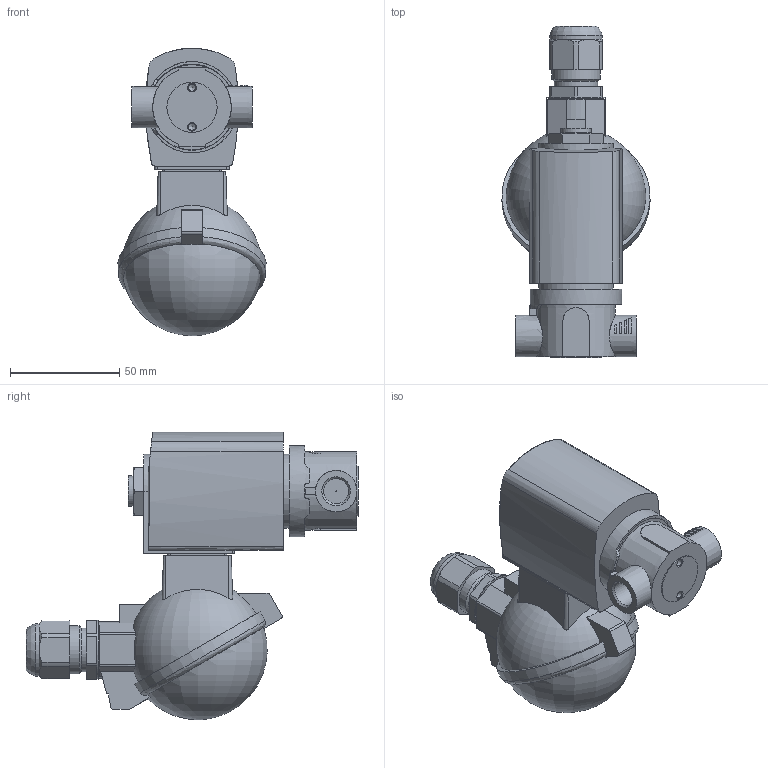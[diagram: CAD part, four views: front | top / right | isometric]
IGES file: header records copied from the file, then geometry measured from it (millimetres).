
Start section: Data from Parasolid IGES Translator 26.0.171, Copyright(c) 2006 Siemens PLM Software. All Rights Reserved.
Global section: file name: 6027-B-1-PTFE___FKM-VA-G_1_4-42-024___UC.igs; native system: By Siemens PLM Incorporated; preprocessor: XPlus GENERIC/IGES 26.0.171; author: Noname; organization: Noname; date: 20240329.111056; units: millimetre
Bounding box: 67.86 x 152.1 x 131.7 mm (x, y, z)
Surface area: 49098 mm2 (no closed solid volume)
Topology: 0 solids, 0 shells, 220 faces, 1155 edges, 1127 vertices
Faces by surface type: extrusion 121, revolution 99
